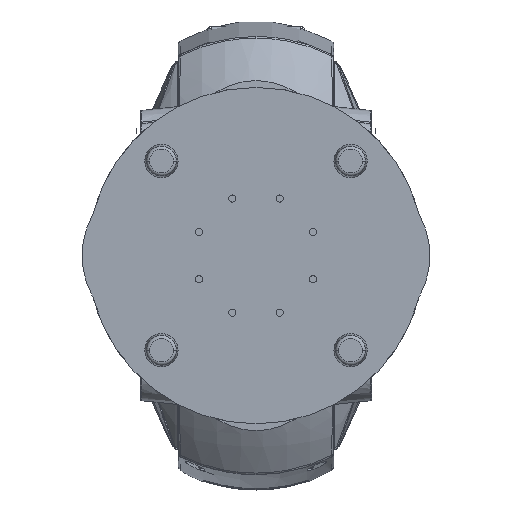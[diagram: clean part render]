
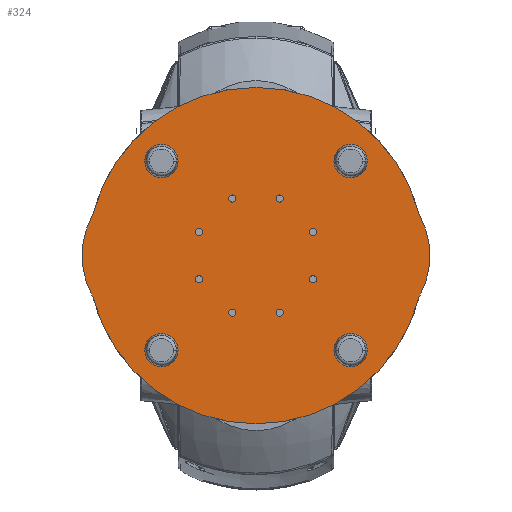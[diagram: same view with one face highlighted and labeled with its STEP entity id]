
A CAD part, front view. The second image highlights one B-rep face of the part: STEP entity #324.
In plain terms, the highlighted planar face has unit normal (0, -1, 0).
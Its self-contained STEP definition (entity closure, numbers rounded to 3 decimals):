
#45=CARTESIAN_POINT('',(42.75,0.,0.));
#46=DIRECTION('',(0.,1.,0.));
#47=DIRECTION('',(0.877,0.,0.481));
#48=AXIS2_PLACEMENT_3D('',#45,#46,#47);
#50=CARTESIAN_POINT('',(0.,0.,0.));
#51=DIRECTION('',(0.,1.,0.));
#52=DIRECTION('',(0.967,0.,-0.255));
#53=AXIS2_PLACEMENT_3D('',#50,#51,#52);
#55=CARTESIAN_POINT('',(-42.75,0.,0.));
#56=DIRECTION('',(0.,1.,0.));
#57=DIRECTION('',(-0.877,0.,-0.481));
#58=AXIS2_PLACEMENT_3D('',#55,#56,#57);
#60=CARTESIAN_POINT('',(0.,0.,0.));
#61=DIRECTION('',(0.,1.,0.));
#62=DIRECTION('',(-0.967,0.,0.255));
#63=AXIS2_PLACEMENT_3D('',#60,#61,#62);
#202=CARTESIAN_POINT('',(82.194,0.,21.661));
#203=DIRECTION('',(0.,1.,0.));
#204=DIRECTION('',(-0.877,0.,-0.481));
#205=AXIS2_PLACEMENT_3D('',#202,#203,#204);
#207=CARTESIAN_POINT('',(82.194,0.,-21.661));
#208=DIRECTION('',(0.,1.,0.));
#209=DIRECTION('',(-0.967,0.,0.255));
#210=AXIS2_PLACEMENT_3D('',#207,#208,#209);
#222=CARTESIAN_POINT('',(-82.194,0.,-21.661));
#223=DIRECTION('',(0.,1.,0.));
#224=DIRECTION('',(0.877,0.,0.481));
#225=AXIS2_PLACEMENT_3D('',#222,#223,#224);
#227=CARTESIAN_POINT('',(-82.194,0.,21.661));
#228=DIRECTION('',(0.,1.,0.));
#229=DIRECTION('',(0.967,0.,-0.255));
#230=AXIS2_PLACEMENT_3D('',#227,#228,#229);
#270=CARTESIAN_POINT('',(77.359,0.,20.387));
#272=VERTEX_POINT('',#270);
#274=CARTESIAN_POINT('',(77.811,0.,19.254));
#276=VERTEX_POINT('',#274);
#277=CARTESIAN_POINT('',(77.359,0.,-20.387));
#279=VERTEX_POINT('',#277);
#281=CARTESIAN_POINT('',(77.811,0.,-19.254));
#283=VERTEX_POINT('',#281);
#286=CARTESIAN_POINT('',(-77.359,0.,-20.387));
#288=VERTEX_POINT('',#286);
#290=CARTESIAN_POINT('',(-77.811,0.,-19.254));
#292=VERTEX_POINT('',#290);
#293=CARTESIAN_POINT('',(-77.359,0.,20.387));
#295=VERTEX_POINT('',#293);
#297=CARTESIAN_POINT('',(-77.811,0.,19.254));
#299=VERTEX_POINT('',#297);
#301=CARTESIAN_POINT('',(0.,0.,0.));
#302=DIRECTION('',(0.,1.,0.));
#303=DIRECTION('',(1.,0.,0.));
#304=AXIS2_PLACEMENT_3D('',#301,#302,#303);
#305=PLANE('',#304);
#307=ORIENTED_EDGE('',*,*,#306,.T.);
#309=ORIENTED_EDGE('',*,*,#308,.F.);
#311=ORIENTED_EDGE('',*,*,#310,.T.);
#313=ORIENTED_EDGE('',*,*,#312,.F.);
#315=ORIENTED_EDGE('',*,*,#314,.T.);
#317=ORIENTED_EDGE('',*,*,#316,.F.);
#319=ORIENTED_EDGE('',*,*,#318,.T.);
#321=ORIENTED_EDGE('',*,*,#320,.F.);
#322=EDGE_LOOP('',(#307,#309,#311,#313,#315,#317,#319,#321));
#323=FACE_OUTER_BOUND('',#322,.F.);
#49=CIRCLE('',#48,40.);
#54=CIRCLE('',#53,80.);
#59=CIRCLE('',#58,40.);
#64=CIRCLE('',#63,80.);
#206=CIRCLE('',#205,5.);
#211=CIRCLE('',#210,5.);
#226=CIRCLE('',#225,5.);
#231=CIRCLE('',#230,5.);
#306=EDGE_CURVE('',#276,#283,#49,.T.);
#308=EDGE_CURVE('',#279,#283,#211,.T.);
#310=EDGE_CURVE('',#279,#288,#54,.T.);
#312=EDGE_CURVE('',#292,#288,#226,.T.);
#314=EDGE_CURVE('',#292,#299,#59,.T.);
#316=EDGE_CURVE('',#295,#299,#231,.T.);
#318=EDGE_CURVE('',#295,#272,#64,.T.);
#320=EDGE_CURVE('',#276,#272,#206,.T.);
#324=ADVANCED_FACE('',(#323),#305,.F.);
